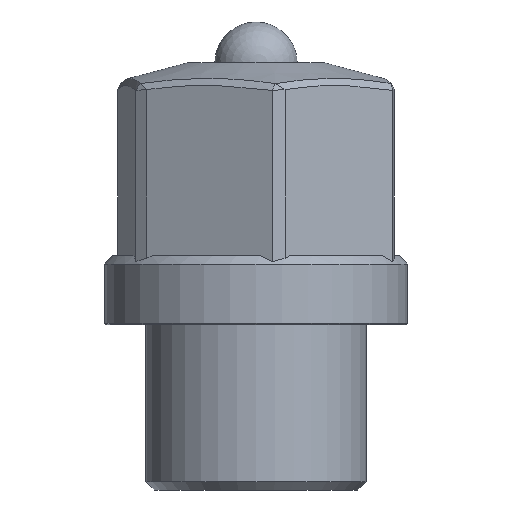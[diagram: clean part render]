
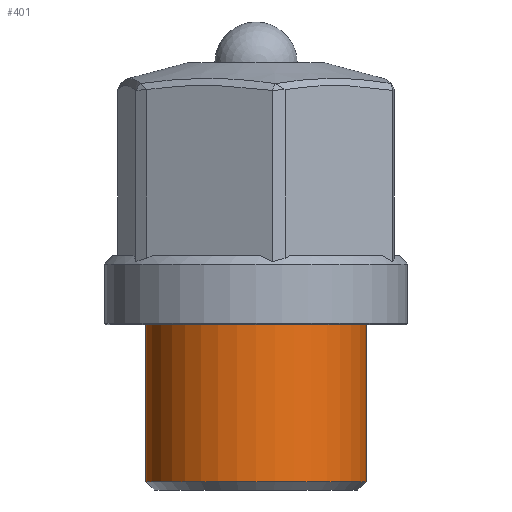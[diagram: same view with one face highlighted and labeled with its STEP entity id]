
A CAD part, front view. The second image highlights one B-rep face of the part: STEP entity #401.
In plain terms, the highlighted cylindrical face has radius 8 mm (diameter 16 mm), a partial arc.
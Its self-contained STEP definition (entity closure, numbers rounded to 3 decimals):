
#19 = EDGE_LOOP ( 'NONE', ( #965, #765, #905, #1286 ) ) ;
#50 = VERTEX_POINT ( 'NONE', #2215 ) ;
#122 = EDGE_CURVE ( 'NONE', #1095, #2335, #1558, .T. ) ;
#135 = DIRECTION ( 'NONE',  ( -1., 0., 0. ) ) ;
#149 = CARTESIAN_POINT ( 'NONE',  ( 8., 0., 12. ) ) ;
#314 = CARTESIAN_POINT ( 'NONE',  ( 0., 0., 12. ) ) ;
#316 = VECTOR ( 'NONE', #1327, 1000. ) ;
#334 = DIRECTION ( 'NONE',  ( 1., 0., 0. ) ) ;
#401 = ADVANCED_FACE ( 'NONE', ( #2152 ), #547, .T. ) ;
#427 = AXIS2_PLACEMENT_3D ( 'NONE', #1950, #1551, #334 ) ;
#452 = VERTEX_POINT ( 'NONE', #149 ) ;
#547 = CYLINDRICAL_SURFACE ( 'NONE', #2586, 8. ) ;
#581 = DIRECTION ( 'NONE',  ( 1., 0., 0. ) ) ;
#765 = ORIENTED_EDGE ( 'NONE', *, *, #1245, .F. ) ;
#905 = ORIENTED_EDGE ( 'NONE', *, *, #122, .T. ) ;
#965 = ORIENTED_EDGE ( 'NONE', *, *, #2555, .F. ) ;
#1081 = CIRCLE ( 'NONE', #427, 8. ) ;
#1095 = VERTEX_POINT ( 'NONE', #1664 ) ;
#1109 = CARTESIAN_POINT ( 'NONE',  ( -8., 0., 12. ) ) ;
#1245 = EDGE_CURVE ( 'NONE', #1095, #452, #1081, .T. ) ;
#1286 = ORIENTED_EDGE ( 'NONE', *, *, #2387, .T. ) ;
#1327 = DIRECTION ( 'NONE',  ( 0., 0., -1. ) ) ;
#1551 = DIRECTION ( 'NONE',  ( 0., 0., 1. ) ) ;
#1558 = LINE ( 'NONE', #1109, #2061 ) ;
#1591 = CARTESIAN_POINT ( 'NONE',  ( 0., 0., 0.6 ) ) ;
#1600 = DIRECTION ( 'NONE',  ( 0., 0., -1. ) ) ;
#1664 = CARTESIAN_POINT ( 'NONE',  ( -8., 0., 12. ) ) ;
#1731 = DIRECTION ( 'NONE',  ( 0., 0., -1. ) ) ;
#1803 = CARTESIAN_POINT ( 'NONE',  ( -8., 0., 0.6 ) ) ;
#1945 = LINE ( 'NONE', #2568, #316 ) ;
#1950 = CARTESIAN_POINT ( 'NONE',  ( 0., 0., 12. ) ) ;
#2061 = VECTOR ( 'NONE', #1731, 1000. ) ;
#2152 = FACE_OUTER_BOUND ( 'NONE', #19, .T. ) ;
#2215 = CARTESIAN_POINT ( 'NONE',  ( 8., 0., 0.6 ) ) ;
#2335 = VERTEX_POINT ( 'NONE', #1803 ) ;
#2373 = AXIS2_PLACEMENT_3D ( 'NONE', #1591, #2412, #581 ) ;
#2387 = EDGE_CURVE ( 'NONE', #2335, #50, #2591, .T. ) ;
#2412 = DIRECTION ( 'NONE',  ( 0., 0., 1. ) ) ;
#2555 = EDGE_CURVE ( 'NONE', #452, #50, #1945, .T. ) ;
#2568 = CARTESIAN_POINT ( 'NONE',  ( 8., 0., 12. ) ) ;
#2586 = AXIS2_PLACEMENT_3D ( 'NONE', #314, #1600, #135 ) ;
#2591 = CIRCLE ( 'NONE', #2373, 8. ) ;
